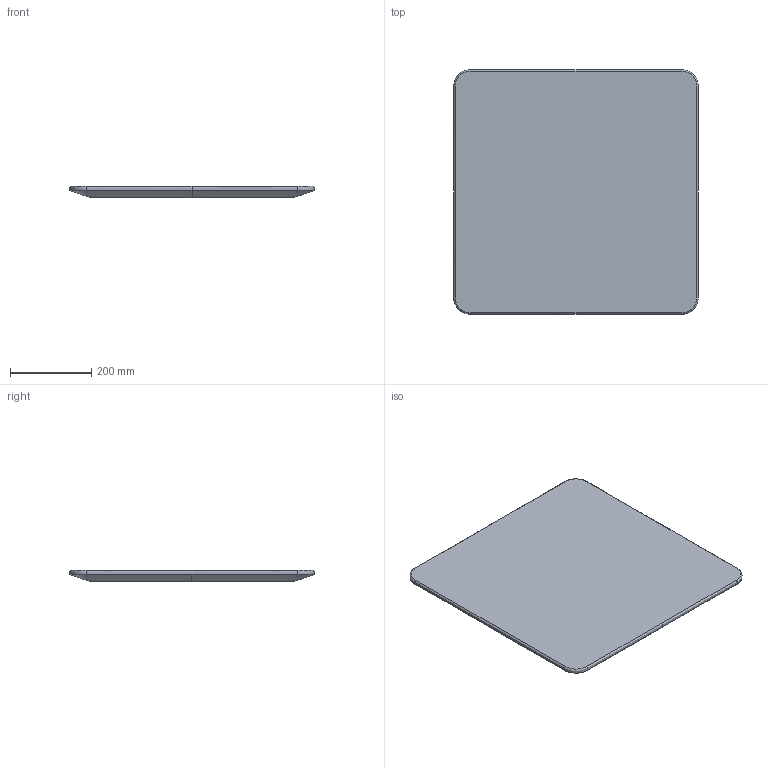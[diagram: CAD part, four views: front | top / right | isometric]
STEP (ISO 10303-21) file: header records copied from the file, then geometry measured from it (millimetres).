
FILE_DESCRIPTION(/* description */ (''),/* implementation_level */ '2;1');
FILE_NAME(/* name */ 'kinoshita_coccole_ct03_w600d600',/* time_stamp */ '2025-03-11T20:37:35+09:00',/* author */ (''),/* organization */ (''),/* preprocessor_version */ 'ST-DEVELOPER v16.5',/* originating_system */ '',/* authorisation */ '');
FILE_SCHEMA (('AUTOMOTIVE_DESIGN'));
Length unit declared in the file: millimetre
Products named in the file (1): Document
Bounding box: 600 x 600 x 27.97 mm (x, y, z)
Volume: 9015941.8 mm3; surface area: 742986.3 mm2
Topology: 1 solids, 1 shells, 24 faces, 60 edges, 34 vertices
Faces by surface type: bspline 22, plane 2
Entity records: 2569 total; most frequent: CARTESIAN_POINT 2260, ORIENTED_EDGE 112, EDGE_CURVE 56, VERTEX_POINT 34, ADVANCED_FACE 24, FACE_OUTER_BOUND 24, EDGE_LOOP 24, DIRECTION 6
